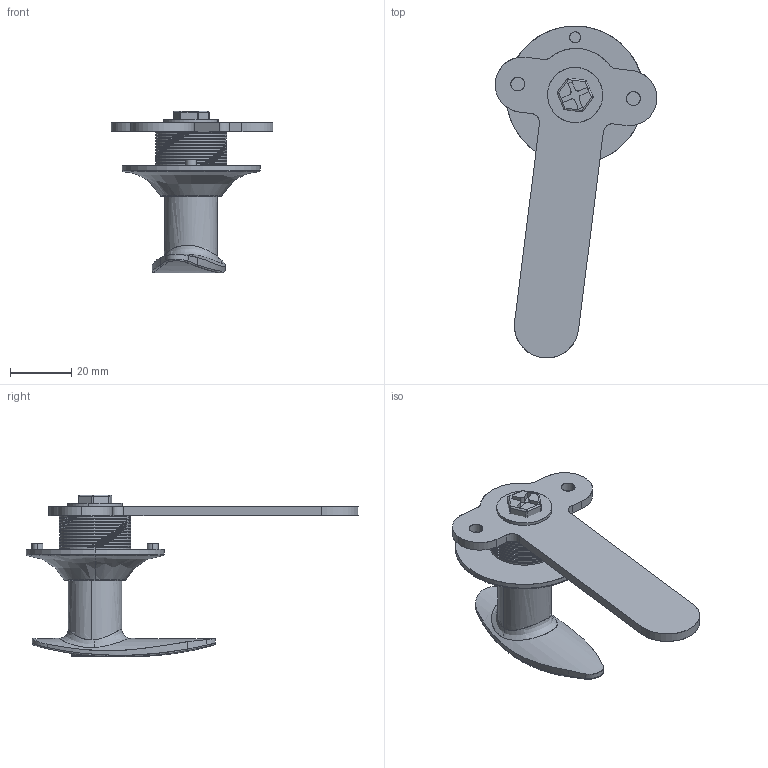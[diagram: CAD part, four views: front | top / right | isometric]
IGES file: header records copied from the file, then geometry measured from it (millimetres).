
Start section: SolidWorks IGES file using analytic representation for surfaces
Global section: file name: D:\由鑫國際內部資料\內部資料\3D圖檔\BL-2119\BL-2119.IGS,15HSolidWorks; native system: 2008; preprocessor: SolidWorks 2008; author: NB; date: 090826.092433; units: millimetre
Bounding box: 52.71 x 108.21 x 52.68 mm (x, y, z)
Surface area: 18886.3 mm2 (no closed solid volume)
Topology: 0 solids, 0 shells, 189 faces, 2887 edges, 2875 vertices
Faces by surface type: revolution 107, bspline 82
